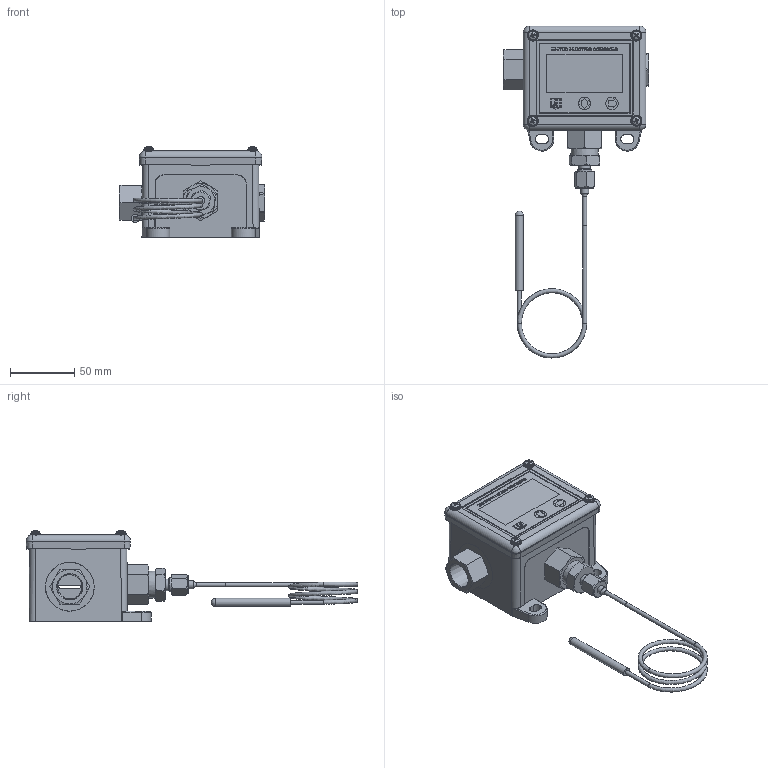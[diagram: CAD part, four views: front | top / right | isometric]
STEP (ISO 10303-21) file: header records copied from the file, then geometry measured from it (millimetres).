
FILE_DESCRIPTION (( 'STEP AP214' ), '1' );
FILE_NAME ('1GSWLLTH1_TC2.STEP', '2025-03-05T20:44:42', ( '' ), ( '' ), 'SwSTEP 2.0', 'SolidWorks 2023', '' );
FILE_SCHEMA (( 'AUTOMOTIVE_DESIGN' ));
Length unit declared in the file: inch
Products named in the file (1): 1GSWLLTH1_TC2
Bounding box: 113.49 x 258.91 x 70.85 mm (x, y, z)
Surface area: 58238.1 mm2 (no closed solid volume)
Topology: 0 solids, 22 shells, 407 faces, 1404 edges, 983 vertices
Faces by surface type: plane 232, cylinder 55, bspline 54, cone 47, torus 10, sphere 9
Full cylindrical faces by diameter (mm): 3.175 x3, 6.35 x2, 6.858 x4, 7.899 x4, 9.017 x1, 9.652 x2, 11.079 x1, 13.716 x1, 24.892 x1
Entity records: 20089 total; most frequent: CARTESIAN_POINT 9224, ORIENTED_EDGE 2081, DIRECTION 1938, EDGE_CURVE 1358, VERTEX_POINT 973, LINE 782, VECTOR 782, AXIS2_PLACEMENT_3D 578
